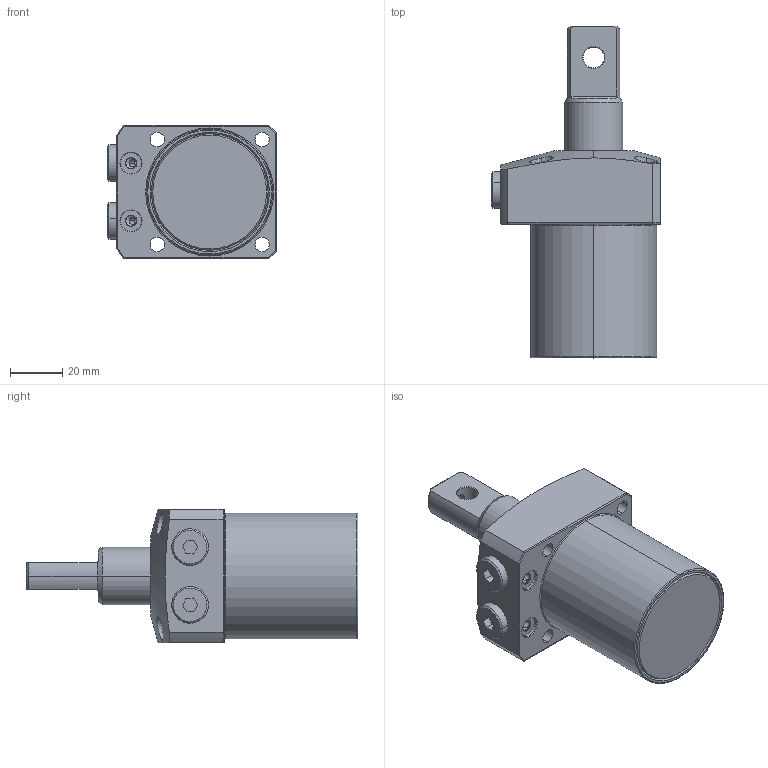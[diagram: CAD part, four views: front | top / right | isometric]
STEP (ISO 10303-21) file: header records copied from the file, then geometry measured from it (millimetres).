
FILE_DESCRIPTION(/* description */ (''),/* implementation_level */ '2;1');
FILE_NAME(/* name */ 'KTRC48-P.stp',/* time_stamp */ '2022-11-17T15:36:06+08:00',/* author */ (''),/* organization */ (''),/* preprocessor_version */ 'ST-DEVELOPER v16.7',/* originating_system */ 'SIEMENS PLM Software NX 12.0',/* authorisation */ '');
FILE_SCHEMA (('AP203_CONFIGURATION_CONTROLLED_3D_DESIGN_OF_MECHANICAL_PARTS_AND_ASSEMBLIES_MIM_LF { 1 0 10303 403 2 1 2}'));
Length unit declared in the file: millimetre
Products named in the file (4): KTRC48-P-02; KTRC48-P-01; KTRC48-P-03; LHA0480-Cx-P_rev1_step
Assembly tree (4 placements, depth 2):
  LHA0480-Cx-P_rev1_step
    KTRC48-P-03  x2
    KTRC48-P-01
    KTRC48-P-02
Bounding box: 64.5 x 126.5 x 51 mm (x, y, z)
Volume: 181166.1 mm3; surface area: 27423.1 mm2
Topology: 4 solids, 4 shells, 164 faces, 397 edges, 253 vertices
Faces by surface type: cylinder 73, plane 48, cone 37, torus 6
Entity records: 5441 total; most frequent: CARTESIAN_POINT 1411, DIRECTION 754, ORIENTED_EDGE 738, EDGE_CURVE 369, AXIS2_PLACEMENT_3D 307, VERTEX_POINT 235, EDGE_LOOP 178, ADVANCED_FACE 151
